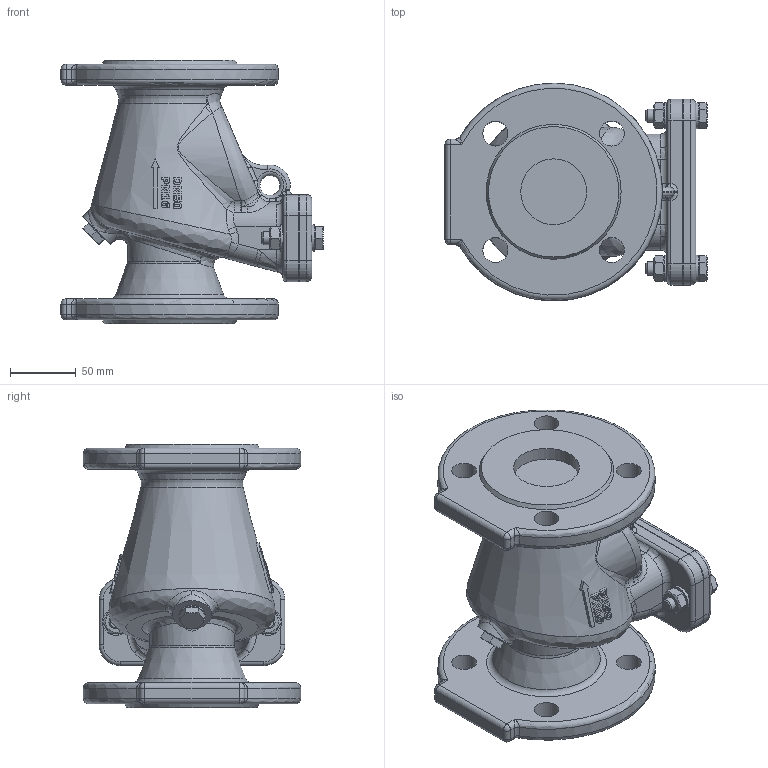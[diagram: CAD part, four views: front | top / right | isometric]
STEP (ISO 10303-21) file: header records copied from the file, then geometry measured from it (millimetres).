
FILE_DESCRIPTION(('STEP AP242'), '1');
FILE_NAME('VAR RETO-STOP 吾疣蝽 觌囡囗 DN 50 PN 16', '2026-06-28T08:25:40', (' '), (' '), 'C3D Converter', 'C3D Toolkit', '');
FILE_SCHEMA(('AP242_MANAGED_MODEL_BASED_3D_ENGINEERING_MIM_LF { 1 0 10303 442 1 1 4 }'));
Length unit declared in the file: millimetre
Products named in the file (1): Admi10D408D9fe7u
Bounding box: 198.9 x 165 x 200 mm (x, y, z)
Volume: 2258403.2 mm3; surface area: 185933 mm2
Topology: 1 solids, 6 shells, 625 faces, 1563 edges, 944 vertices
Faces by surface type: plane 201, extrusion 134, cylinder 102, bspline 75, cone 60, torus 37, sphere 16
Full cylindrical faces by diameter (mm): 9.076 x1, 10 x7, 10.5 x5, 15 x1, 15.6 x3, 18 x1, 19 x8, 20 x5, 30 x1, 50 x2
Entity records: 42965 total; most frequent: CARTESIAN_POINT 25018, ORIENTED_EDGE 2934, DIRECTION 2143, EDGE_CURVE 1467, VERTEX_POINT 941, B_SPLINE_CURVE_WITH_KNOTS 792, AXIS2_PLACEMENT_3D 787, EDGE_LOOP 740
